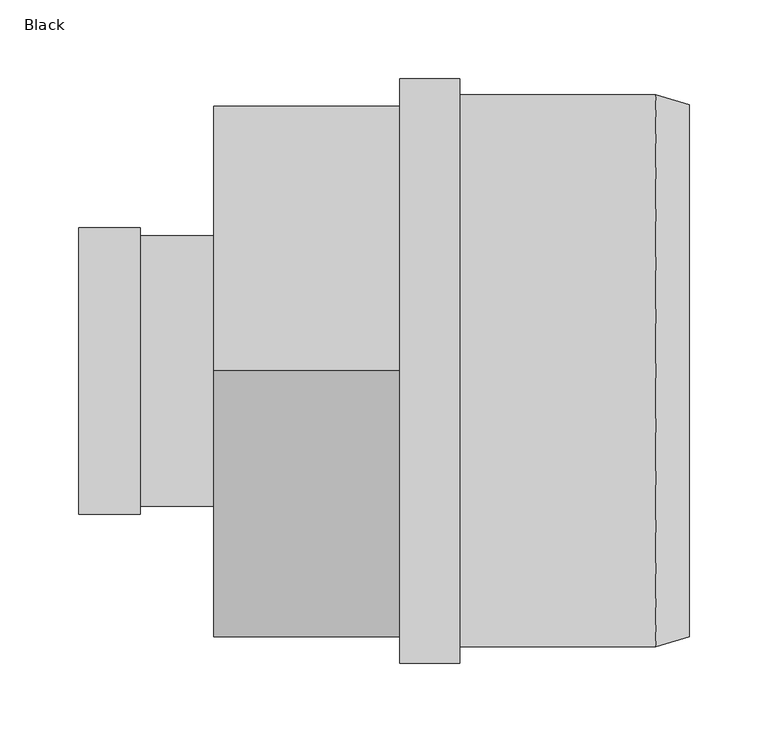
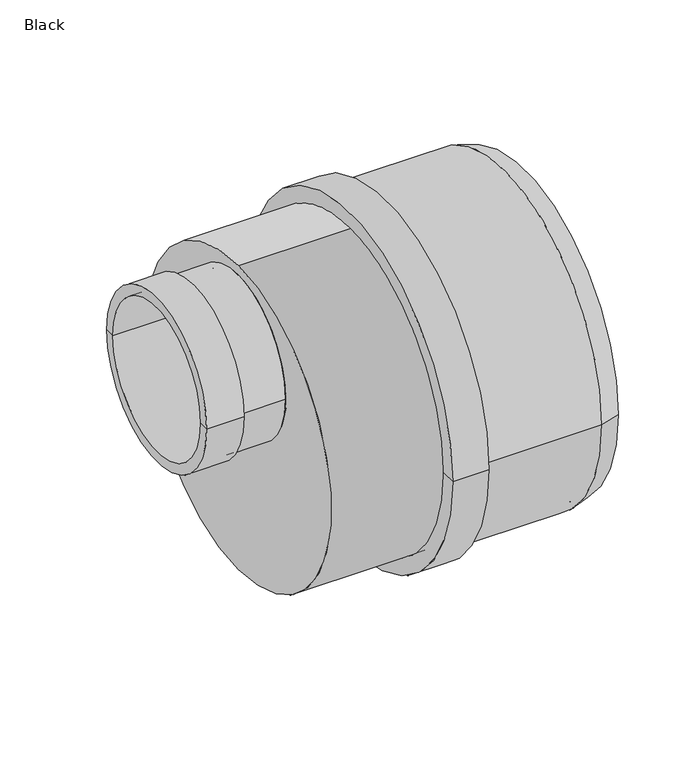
"""IFC4 building model written with IfcOpenShell, lengths in millimetres: pipe fitting geometry, PIF_X-Stream_TransitionReducer_PlainEnd_X-Stream-PVC_Wavin_(union) : Black."""

from ifc_helpers import new_model, si_unit, point, frame, origin, origin_2d, place, context, project, spatial, polyline, circle_curve, trimmed, segment, composite_curve, outline, extrude, source, transform, mapped, element, save
from ifc_brep_helpers import plane_surface, cylinder_surface, revolved_surface, advanced_brep


def black_066bcdc2(model_context):
    return source(origin(), model_context, "Body", "SolidModel", [
        advanced_brep(
        [(161.7, 169.0, 0.0), (161.7, -169.0, 0.0), (140.4, -175.4, 0.0), (140.4, 175.4, 0.0), (161.7, 0.0, 0.0), (140.4, 169.0, 0.0), (140.4, -169.0, 0.0), (140.4, 0.0, 0.0), (-22.3, 169.0, 0.0), (-22.3, -169.0, 0.0), (-22.3, 185.7, 0.0), (-22.3, -185.7, 0.0), (15.9, 185.7, 0.0), (15.9, -185.7, 0.0), (15.9, 175.4, 0.0), (15.9, -175.4, 0.0)],
        [
            (0, 1, circle_curve(frame((161.7, 0.0, 0.0), z_axis=(-1.0, 0.0, 0.0), x_axis=(0.0, -1.0, 0.0)), 169.0)),
            (1, 2),
            (2, 3, circle_curve(frame((140.4, 0.0, 0.0), z_axis=(1.0, 0.0, 0.0), x_axis=(0.0, -1.0, 0.0)), 175.4)),
            (3, 0),
            (1, 0, circle_curve(frame((161.7, 0.0, 0.0), z_axis=(-1.0, 0.0, 0.0), x_axis=(0.0, -1.0, 0.0)), 169.0)),
            (3, 2, circle_curve(frame((140.4, 0.0, 0.0), z_axis=(1.0, 0.0, 0.0), x_axis=(0.0, -1.0, 0.0)), 175.4)),
            (4, 1),
            (0, 4),
            (5, 6, circle_curve(frame((140.4, 0.0, 0.0), z_axis=(-1.0, 0.0, 0.0), x_axis=(0.0, -1.0, 0.0)), 169.0)),
            (6, 7),
            (7, 5),
            (6, 5, circle_curve(frame((140.4, 0.0, 0.0), z_axis=(-1.0, 0.0, 0.0), x_axis=(0.0, -1.0, 0.0)), 169.0)),
            (8, 9, circle_curve(frame((-22.3, 0.0, 0.0), z_axis=(-1.0, 0.0, 0.0), x_axis=(0.0, -1.0, 0.0)), 169.0)),
            (9, 6),
            (5, 8),
            (9, 8, circle_curve(frame((-22.3, 0.0, 0.0), z_axis=(-1.0, 0.0, 0.0), x_axis=(0.0, -1.0, 0.0)), 169.0)),
            (10, 11, circle_curve(frame((-22.3, 0.0, 0.0), z_axis=(-1.0, 0.0, 0.0), x_axis=(0.0, -1.0, 0.0)), 185.7)),
            (11, 9),
            (8, 10),
            (11, 10, circle_curve(frame((-22.3, 0.0, 0.0), z_axis=(-1.0, 0.0, 0.0), x_axis=(0.0, -1.0, 0.0)), 185.7)),
            (12, 13, circle_curve(frame((15.9, 0.0, 0.0), z_axis=(-1.0, 0.0, 0.0), x_axis=(0.0, -1.0, 0.0)), 185.7)),
            (13, 11),
            (10, 12),
            (13, 12, circle_curve(frame((15.9, 0.0, 0.0), z_axis=(-1.0, 0.0, 0.0), x_axis=(0.0, -1.0, 0.0)), 185.7)),
            (14, 15, circle_curve(frame((15.9, 0.0, 0.0), z_axis=(-1.0, 0.0, 0.0), x_axis=(0.0, -1.0, 0.0)), 175.4)),
            (15, 13),
            (12, 14),
            (15, 14, circle_curve(frame((15.9, 0.0, 0.0), z_axis=(-1.0, 0.0, 0.0), x_axis=(0.0, -1.0, 0.0)), 175.4)),
            (2, 15),
            (14, 3),
        ],
        [
            revolved_surface(polyline([(140.4, -175.4, 0.0), (161.7, -169.0, 0.0)]), (-1925.4265064, 0.0, 0.0), (1.0, 0.0, 0.0)),
            plane_surface(frame((161.7, 0.0, 0.0), z_axis=(1.0, 0.0, 0.0), x_axis=(0.0, -1.0, 0.0))),
            plane_surface(frame((140.4, 0.0, 0.0), z_axis=(-1.0, 0.0, 0.0), x_axis=(0.0, -1.0, 0.0))),
            revolved_surface(polyline([(140.4000000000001, -169.0, 0.0), (-22.299999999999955, -169.0, 0.0)]), (-1925.4265064, 0.0, 0.0), (1.0, 0.0, 0.0)),
            plane_surface(frame((-22.3, 0.0, 0.0), z_axis=(-1.0, 0.0, 0.0), x_axis=(0.0, -1.0, 0.0))),
            cylinder_surface(frame((-1925.4265064, 0.0, 0.0), z_axis=(1.0, 0.0, 0.0), x_axis=(0.0, -1.0, 0.0)), 185.7),
            plane_surface(frame((15.9, 0.0, 0.0), z_axis=(1.0, 0.0, 0.0), x_axis=(0.0, -1.0, 0.0))),
            cylinder_surface(frame((-1925.4265064, 0.0, 0.0), z_axis=(1.0, 0.0, 0.0), x_axis=(0.0, -1.0, 0.0)), 175.4),
        ],
        [
            (0, [[1, 2, 3, 4]]),
            (0, [[5, -4, 6, -2]]),
            (1, [[7, -1, 8]]),
            (1, [[-8, -5, -7]]),
            (2, [[9, 10, 11]]),
            (2, [[12, -11, -10]]),
            (3, [[13, 14, -9, 15]]),
            (3, [[16, -15, -12, -14]]),
            (4, [[17, 18, -13, 19]]),
            (4, [[20, -19, -16, -18]]),
            (5, [[21, 22, -17, 23]]),
            (5, [[24, -23, -20, -22]]),
            (6, [[25, 26, -21, 27]]),
            (6, [[28, -27, -24, -26]]),
            (7, [[-3, 29, -25, 30]]),
            (7, [[-6, -30, -28, -29]]),
        ],
    ),
        advanced_brep(
        [(-135.4, 80.0, 72.5), (-135.4, -80.0, 72.5), (-140.4, -85.95, 72.5), (-140.4, 85.95, 72.5), (-135.4, 0.0, 72.5), (-140.4, 80.0, 72.5), (-140.4, -80.0, 72.5), (-140.4, 0.0, 72.5), (-226.4, 80.0, 72.5), (-226.4, -80.0, 72.5), (-226.4, 91.1, 72.5), (-226.4, -91.1, 72.5), (-187.4, 91.1, 72.5), (-187.4, -91.1, 72.5), (-187.4, 85.95, 72.5), (-187.4, -85.95, 72.5)],
        [
            (0, 1, circle_curve(frame((-135.4, 0.0, 72.5), z_axis=(-1.0, 0.0, 0.0), x_axis=(0.0, -1.0, 0.0)), 80.0)),
            (1, 2),
            (2, 3, circle_curve(frame((-140.4, 0.0, 72.5), z_axis=(1.0, 0.0, 0.0), x_axis=(0.0, -1.0, 0.0)), 85.95)),
            (3, 0),
            (1, 0, circle_curve(frame((-135.4, 0.0, 72.5), z_axis=(-1.0, 0.0, 0.0), x_axis=(0.0, -1.0, 0.0)), 80.0)),
            (3, 2, circle_curve(frame((-140.4, 0.0, 72.5), z_axis=(1.0, 0.0, 0.0), x_axis=(0.0, -1.0, 0.0)), 85.95)),
            (4, 1),
            (0, 4),
            (5, 6, circle_curve(frame((-140.4, 0.0, 72.5), z_axis=(-1.0, 0.0, 0.0), x_axis=(0.0, -1.0, 0.0)), 80.0)),
            (6, 7),
            (7, 5),
            (6, 5, circle_curve(frame((-140.4, 0.0, 72.5), z_axis=(-1.0, 0.0, 0.0), x_axis=(0.0, -1.0, 0.0)), 80.0)),
            (8, 9, circle_curve(frame((-226.4, 0.0, 72.5), z_axis=(-1.0, 0.0, 0.0), x_axis=(0.0, -1.0, 0.0)), 80.0)),
            (9, 6),
            (5, 8),
            (9, 8, circle_curve(frame((-226.4, 0.0, 72.5), z_axis=(-1.0, 0.0, 0.0), x_axis=(0.0, -1.0, 0.0)), 80.0)),
            (10, 11, circle_curve(frame((-226.4, 0.0, 72.5), z_axis=(-1.0, 0.0, 0.0), x_axis=(0.0, -1.0, 0.0)), 91.1)),
            (11, 9),
            (8, 10),
            (11, 10, circle_curve(frame((-226.4, 0.0, 72.5), z_axis=(-1.0, 0.0, 0.0), x_axis=(0.0, -1.0, 0.0)), 91.1)),
            (12, 13, circle_curve(frame((-187.4, 0.0, 72.5), z_axis=(-1.0, 0.0, 0.0), x_axis=(0.0, -1.0, 0.0)), 91.1)),
            (13, 11),
            (10, 12),
            (13, 12, circle_curve(frame((-187.4, 0.0, 72.5), z_axis=(-1.0, 0.0, 0.0), x_axis=(0.0, -1.0, 0.0)), 91.1)),
            (14, 15, circle_curve(frame((-187.4, 0.0, 72.5), z_axis=(-1.0, 0.0, 0.0), x_axis=(0.0, -1.0, 0.0)), 85.95)),
            (15, 13),
            (12, 14),
            (15, 14, circle_curve(frame((-187.4, 0.0, 72.5), z_axis=(-1.0, 0.0, 0.0), x_axis=(0.0, -1.0, 0.0)), 85.95)),
            (2, 15),
            (14, 3),
        ],
        [
            revolved_surface(polyline([(-140.4, -85.95, 72.5), (-135.4, -80.0, 72.5)]), (-2129.5265064, 0.0, 72.5), (1.0, 0.0, 0.0)),
            plane_surface(frame((-135.4, 0.0, 72.5), z_axis=(1.0, 0.0, 0.0), x_axis=(0.0, -1.0, 0.0))),
            plane_surface(frame((-140.4, 0.0, 72.5), z_axis=(-1.0, 0.0, 0.0), x_axis=(0.0, -1.0, 0.0))),
            revolved_surface(polyline([(-140.4000000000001, -80.0, 72.5), (-226.4000000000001, -80.0, 72.5)]), (-2129.5265064, 0.0, 72.5), (1.0, 0.0, 0.0)),
            plane_surface(frame((-226.4, 0.0, 72.5), z_axis=(-1.0, 0.0, 0.0), x_axis=(0.0, -1.0, 0.0))),
            cylinder_surface(frame((-2129.5265064, 0.0, 72.5), z_axis=(1.0, 0.0, 0.0), x_axis=(0.0, -1.0, 0.0)), 91.1),
            plane_surface(frame((-187.4, 0.0, 72.5), z_axis=(1.0, 0.0, 0.0), x_axis=(0.0, -1.0, 0.0))),
            cylinder_surface(frame((-2129.5265064, 0.0, 72.5), z_axis=(1.0, 0.0, 0.0), x_axis=(0.0, -1.0, 0.0)), 85.95),
        ],
        [
            (0, [[1, 2, 3, 4]]),
            (0, [[5, -4, 6, -2]]),
            (1, [[7, -1, 8]]),
            (1, [[-8, -5, -7]]),
            (2, [[9, 10, 11]]),
            (2, [[12, -11, -10]]),
            (3, [[13, 14, -9, 15]]),
            (3, [[16, -15, -12, -14]]),
            (4, [[17, 18, -13, 19]]),
            (4, [[20, -19, -16, -18]]),
            (5, [[21, 22, -17, 23]]),
            (5, [[24, -23, -20, -22]]),
            (6, [[25, 26, -21, 27]]),
            (6, [[28, -27, -24, -26]]),
            (7, [[-3, 29, -25, 30]]),
            (7, [[-6, -30, -28, -29]]),
        ],
    ),
        extrude(outline(composite_curve([segment(trimmed(circle_curve(origin_2d(), 169.0), [point((0.0, -169.0))], [point((0.0, 169.0))], False, "CARTESIAN"), True, "CONTINUOUS"), segment(trimmed(circle_curve(origin_2d(), 169.0), [point((0.0, 169.0))], [point((0.0, -169.0))], False, "CARTESIAN"), True, "CONTINUOUS")], self_intersect=False)), frame((-140.4, 0.0, 0.0), z_axis=(1.0, 0.0, 0.0), x_axis=(0.0, 1.0, 0.0)), (0.0, 0.0, 1.0), 280.8),
    ])


if __name__ == "__main__":
    model = new_model("IFC4")
    model_context = context("Model", 3, world=origin())
    ifc_project = project(units=[si_unit("LENGTHUNIT", "METRE", prefix="MILLI")], contexts=[model_context])
    site = spatial("IfcSite", under=ifc_project)
    building = spatial("IfcBuilding", under=site)
    placement = place(None, origin())
    black_shape = black_066bcdc2(model_context)
    element("IfcPipeFitting", 1, ObjectType="PIF_X-Stream_TransitionReducer_PlainEnd_X-Stream-PVC_Wavin_(union) : Black", at=placement, inside=building, context=model_context, shape_type="MappedRepresentation", body=[
        mapped(black_shape, transform((0.0, 0.0, 0.0), x_axis=(1.0, 0.0, 0.0), y_axis=(0.0, 1.0, 0.0), z_axis=(0.0, 0.0, 1.0))),
    ])
    save(model, "model.ifc")
